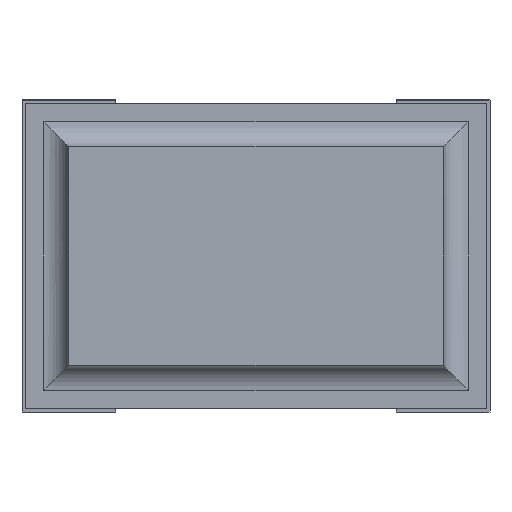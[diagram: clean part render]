
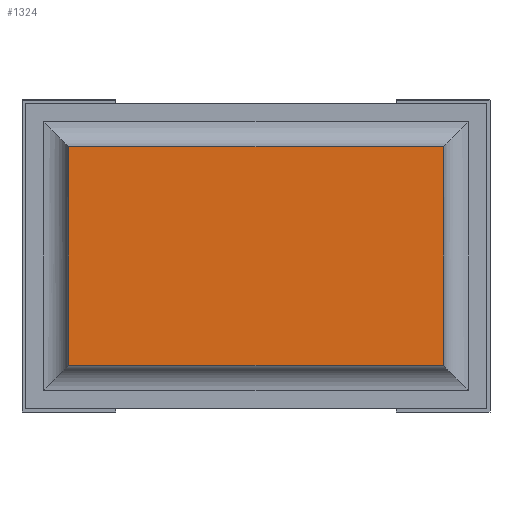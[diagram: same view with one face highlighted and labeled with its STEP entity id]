
A CAD part, front view. The second image highlights one B-rep face of the part: STEP entity #1324.
In plain terms, the highlighted planar face has unit normal (0, -1, 0).
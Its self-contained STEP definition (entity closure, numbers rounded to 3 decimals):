
#29=PLANE('',#1432);
#96=FACE_OUTER_BOUND('',#178,.T.);
#178=EDGE_LOOP('',(#941,#942,#943,#944));
#265=LINE('',#1910,#437);
#268=LINE('',#1916,#440);
#269=LINE('',#1919,#441);
#270=LINE('',#1920,#442);
#437=VECTOR('',#1539,10.);
#440=VECTOR('',#1544,10.);
#441=VECTOR('',#1547,10.);
#442=VECTOR('',#1548,10.);
#625=VERTEX_POINT('',#1906);
#626=VERTEX_POINT('',#1908);
#628=VERTEX_POINT('',#1914);
#629=VERTEX_POINT('',#1918);
#747=EDGE_CURVE('',#625,#626,#265,.T.);
#750=EDGE_CURVE('',#628,#626,#268,.T.);
#751=EDGE_CURVE('',#629,#628,#269,.T.);
#752=EDGE_CURVE('',#625,#629,#270,.T.);
#941=ORIENTED_EDGE('',*,*,#750,.F.);
#942=ORIENTED_EDGE('',*,*,#751,.F.);
#943=ORIENTED_EDGE('',*,*,#752,.F.);
#944=ORIENTED_EDGE('',*,*,#747,.T.);
#1324=ADVANCED_FACE('',(#96),#29,.T.);
#1432=AXIS2_PLACEMENT_3D('',#1917,#1545,#1546);
#1539=DIRECTION('',(0.,0.,-1.));
#1544=DIRECTION('',(-1.,0.,0.));
#1545=DIRECTION('center_axis',(0.,-1.,0.));
#1546=DIRECTION('ref_axis',(0.,0.,-1.));
#1547=DIRECTION('',(0.,0.,-1.));
#1548=DIRECTION('',(1.,0.,0.));
#1906=CARTESIAN_POINT('',(0.075,0.,0.425));
#1908=CARTESIAN_POINT('',(0.075,0.,0.075));
#1910=CARTESIAN_POINT('',(0.075,0.,0.425));
#1914=CARTESIAN_POINT('',(0.675,0.,0.075));
#1916=CARTESIAN_POINT('',(0.675,0.,0.075));
#1917=CARTESIAN_POINT('Origin',(0.676,0.,0.25));
#1918=CARTESIAN_POINT('',(0.675,0.,0.425));
#1919=CARTESIAN_POINT('',(0.675,0.,0.425));
#1920=CARTESIAN_POINT('',(0.075,0.,0.425));
